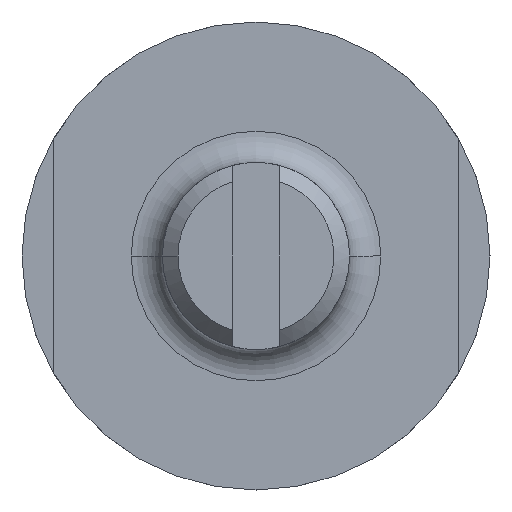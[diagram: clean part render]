
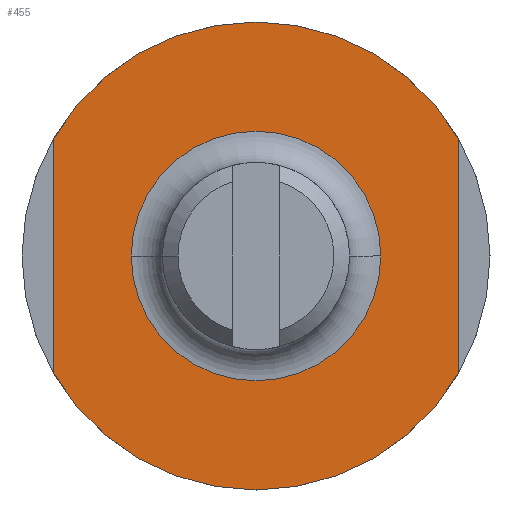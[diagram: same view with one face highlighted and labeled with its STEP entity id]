
A CAD part, front view. The second image highlights one B-rep face of the part: STEP entity #455.
In plain terms, the highlighted planar face has unit normal (0, -1, 0).
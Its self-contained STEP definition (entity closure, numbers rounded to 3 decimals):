
#41 = AXIS2_PLACEMENT_3D ( 'NONE', #578, #226, #641 ) ;
#59 = AXIS2_PLACEMENT_3D ( 'NONE', #556, #205, #620 ) ;
#64 = VERTEX_POINT ( 'NONE', #443 ) ;
#67 = FACE_OUTER_BOUND ( 'NONE', #673, .T. ) ;
#73 = AXIS2_PLACEMENT_3D ( 'NONE', #477, #134, #537 ) ;
#84 = ORIENTED_EDGE ( 'NONE', *, *, #553, .T. ) ;
#96 = VERTEX_POINT ( 'NONE', #222 ) ;
#100 = ORIENTED_EDGE ( 'NONE', *, *, #334, .F. ) ;
#106 = DIRECTION ( 'NONE',  ( 0., 1., 0. ) ) ;
#134 = DIRECTION ( 'NONE',  ( 0., 1., 0. ) ) ;
#139 = EDGE_CURVE ( 'NONE', #96, #357, #143, .T. ) ;
#143 = CIRCLE ( 'NONE', #171, 7.5 ) ;
#161 = EDGE_CURVE ( 'NONE', #357, #536, #266, .T. ) ;
#171 = AXIS2_PLACEMENT_3D ( 'NONE', #460, #106, #513 ) ;
#191 = CARTESIAN_POINT ( 'NONE',  ( 6.5, 0., 3.742 ) ) ;
#198 = ORIENTED_EDGE ( 'NONE', *, *, #765, .T. ) ;
#205 = DIRECTION ( 'NONE',  ( 0., 1., 0. ) ) ;
#222 = CARTESIAN_POINT ( 'NONE',  ( -6.5, 0., 3.742 ) ) ;
#226 = DIRECTION ( 'NONE',  ( 0., 1., 0. ) ) ;
#266 = LINE ( 'NONE', #701, #756 ) ;
#282 = CARTESIAN_POINT ( 'NONE',  ( -4., 0., 0. ) ) ;
#305 = CARTESIAN_POINT ( 'NONE',  ( -6.5, 0., 0. ) ) ;
#310 = EDGE_LOOP ( 'NONE', ( #84, #198 ) ) ;
#314 = EDGE_CURVE ( 'NONE', #536, #64, #459, .T. ) ;
#325 = ORIENTED_EDGE ( 'NONE', *, *, #139, .F. ) ;
#334 = EDGE_CURVE ( 'NONE', #64, #96, #766, .T. ) ;
#354 = ORIENTED_EDGE ( 'NONE', *, *, #161, .F. ) ;
#357 = VERTEX_POINT ( 'NONE', #191 ) ;
#376 = DIRECTION ( 'NONE',  ( 1., 0., 0. ) ) ;
#383 = CARTESIAN_POINT ( 'NONE',  ( 4., 0., 0. ) ) ;
#433 = PLANE ( 'NONE',  #594 ) ;
#443 = CARTESIAN_POINT ( 'NONE',  ( -6.5, 0., -3.742 ) ) ;
#455 = ADVANCED_FACE ( 'NONE', ( #67, #726 ), #433, .T. ) ;
#459 = CIRCLE ( 'NONE', #73, 7.5 ) ;
#460 = CARTESIAN_POINT ( 'NONE',  ( 0., 0., 0. ) ) ;
#477 = CARTESIAN_POINT ( 'NONE',  ( 0., 0., 0. ) ) ;
#495 = CIRCLE ( 'NONE', #59, 4. ) ;
#513 = DIRECTION ( 'NONE',  ( -1., 0., 0. ) ) ;
#526 = CIRCLE ( 'NONE', #41, 4. ) ;
#536 = VERTEX_POINT ( 'NONE', #613 ) ;
#537 = DIRECTION ( 'NONE',  ( -1., 0., 0. ) ) ;
#553 = EDGE_CURVE ( 'NONE', #782, #590, #495, .T. ) ;
#556 = CARTESIAN_POINT ( 'NONE',  ( 0., 0., 0. ) ) ;
#578 = CARTESIAN_POINT ( 'NONE',  ( 0., 0., 0. ) ) ;
#579 = DIRECTION ( 'NONE',  ( 0., 0., -1. ) ) ;
#583 = ORIENTED_EDGE ( 'NONE', *, *, #314, .F. ) ;
#588 = DIRECTION ( 'NONE',  ( 0., -1., 0. ) ) ;
#590 = VERTEX_POINT ( 'NONE', #383 ) ;
#594 = AXIS2_PLACEMENT_3D ( 'NONE', #610, #588, #376 ) ;
#598 = VECTOR ( 'NONE', #728, 1000. ) ;
#610 = CARTESIAN_POINT ( 'NONE',  ( 0., 0., 0. ) ) ;
#613 = CARTESIAN_POINT ( 'NONE',  ( 6.5, 0., -3.742 ) ) ;
#620 = DIRECTION ( 'NONE',  ( -1., 0., 0. ) ) ;
#641 = DIRECTION ( 'NONE',  ( -1., 0., 0. ) ) ;
#673 = EDGE_LOOP ( 'NONE', ( #100, #583, #354, #325 ) ) ;
#701 = CARTESIAN_POINT ( 'NONE',  ( 6.5, 0., 0. ) ) ;
#726 = FACE_BOUND ( 'NONE', #310, .T. ) ;
#728 = DIRECTION ( 'NONE',  ( 0., 0., 1. ) ) ;
#756 = VECTOR ( 'NONE', #579, 1000. ) ;
#765 = EDGE_CURVE ( 'NONE', #590, #782, #526, .T. ) ;
#766 = LINE ( 'NONE', #305, #598 ) ;
#782 = VERTEX_POINT ( 'NONE', #282 ) ;
